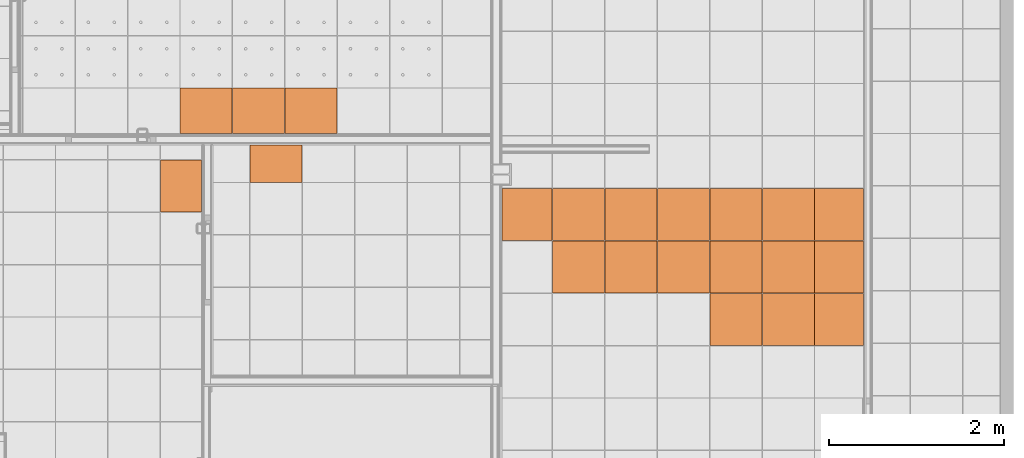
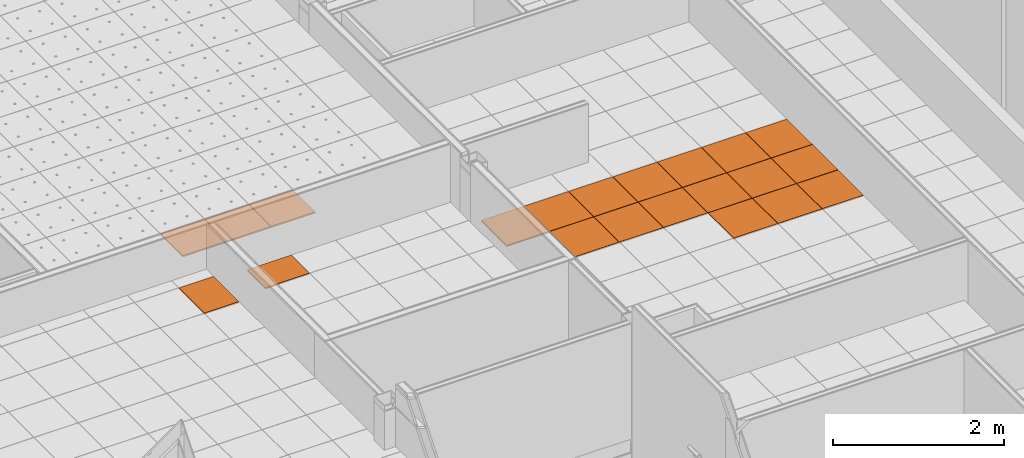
# One storey, part 288 of 338: 21 proxies, 4 elements without a shape of their own.
"""IFC2X3 building model written with IfcOpenShell, lengths in millimetres."""

import ifcopenshell
import ifcopenshell.guid

model = None  # the IFC model being written
_history = None  # IfcOwnerHistory: only IFC2X3 demands one
_inside = {}  # id of a spatial element -> (the spatial element, [elements in it])
_under = {}  # id of a project, library or spatial element -> (it, [spatial elements below it])
_declared = {}  # id of a project -> (the project, [libraries it declares])
_typed = {}  # id of a type object -> (the type object, [elements of that type])
_made_of = {}  # id of a material, layer set ... -> (it, [elements and type objects made of it])


def new_model(schema):
    """Start an empty IFC model of exactly this schema.

    Asked for "IFC4X3", IfcOpenShell would pick the latest addendum, in which some entities
    have other attributes; the version numbers below select the first issue.
    IFC2X3 requires an IfcOwnerHistory on every rooted entity: one is made here for all.
    """
    global model, _history
    if schema == "IFC4X3":
        model = ifcopenshell.file(schema_version=(4, 3, 0, 0))
    else:
        model = ifcopenshell.file(schema=schema)
    _inside.clear()
    _under.clear()
    _declared.clear()
    _typed.clear()
    _made_of.clear()
    _history = None
    if model.schema == "IFC2X3":
        org = make("IfcOrganization", Name="unknown")
        user = make(
            "IfcPersonAndOrganization",
            ThePerson=make("IfcPerson", FamilyName="unknown"),
            TheOrganization=org,
        )
        app = make(
            "IfcApplication",
            ApplicationDeveloper=org,
            Version="unknown",
            ApplicationFullName="unknown",
            ApplicationIdentifier="unknown",
        )
        _history = make(
            "IfcOwnerHistory",
            OwningUser=user,
            OwningApplication=app,
            ChangeAction="ADDED",
            CreationDate=0,
        )
    return model


def make(cls, **values):
    """One entity of the class cls with the attributes given. An attribute that is None is left unset."""
    return model.create_entity(
        cls, **{name: value for name, value in values.items() if value is not None}
    )


def entity(cls, *values):
    """Any entity or typed value of the class cls, its attributes in the order of the schema. None: left unset."""
    e = model.create_entity(cls)
    for i, value in enumerate(values):
        if value is not None:
            e[i] = value
    return e


def rooted(cls, **values):
    """An entity with a GlobalId (a new one), such as an element, a storey or a relation."""
    return make(cls, GlobalId=ifcopenshell.guid.new(), OwnerHistory=_history, **values)


def si_unit(unit_type, name, prefix=None):
    """IfcSIUnit, for example si_unit("LENGTHUNIT", "METRE", prefix="MILLI")."""
    return make("IfcSIUnit", UnitType=unit_type, Prefix=prefix, Name=name)


def converted_unit(unit_type, name, factor, base, dimensions=None, offset=None):
    """IfcConversionBasedUnit, such as the inch: factor (a typed value) times the base unit."""
    return make(
        "IfcConversionBasedUnit"
        if offset is None
        else "IfcConversionBasedUnitWithOffset",
        ConversionOffset=offset,
        Dimensions=None
        if dimensions is None
        else entity("IfcDimensionalExponents", *dimensions),
        UnitType=unit_type,
        Name=name,
        ConversionFactor=make(
            "IfcMeasureWithUnit", ValueComponent=factor, UnitComponent=base
        ),
    )


def derived_unit(unit_type, elements):
    """IfcDerivedUnit: a product of units, each with its exponent."""
    return make(
        "IfcDerivedUnit",
        Elements=[
            make("IfcDerivedUnitElement", Unit=unit, Exponent=power)
            for unit, power in elements
        ],
        UnitType=unit_type,
    )


def money_unit(currency):
    """IfcMonetaryUnit."""
    return make("IfcMonetaryUnit", Currency=currency)


def assignment(units):
    """IfcUnitAssignment: the units of a project."""
    return None if units is None else make("IfcUnitAssignment", Units=units)


def point(xyz):
    """IfcCartesianPoint."""
    return None if xyz is None else make("IfcCartesianPoint", Coordinates=xyz)


def direction(xyz):
    """IfcDirection."""
    return None if xyz is None else make("IfcDirection", DirectionRatios=xyz)


def frame(location, z_axis=None, x_axis=None):
    """IfcAxis2Placement3D, a coordinate frame: its origin and axes. An axis left out is left unset."""
    return make(
        "IfcAxis2Placement3D",
        Location=point(location),
        Axis=direction(z_axis),
        RefDirection=direction(x_axis),
    )


def origin_with_axes():
    """The frame at (0, 0, 0) with the z axis (0, 0, 1) and the x axis (1, 0, 0) written out."""
    return frame((0.0, 0.0, 0.0), z_axis=(0.0, 0.0, 1.0), x_axis=(1.0, 0.0, 0.0))


def place(relative_to, where):
    """IfcLocalPlacement: puts the frame where relative to a parent placement (None: the world)."""
    return make(
        "IfcLocalPlacement", PlacementRelTo=relative_to, RelativePlacement=where
    )


def context(
    kind, dimensions, precision=None, world=None, true_north=None, identifier=None
):
    """IfcGeometricRepresentationContext, for example the 3D "Model" context."""
    return make(
        "IfcGeometricRepresentationContext",
        ContextIdentifier=identifier,
        ContextType=kind,
        CoordinateSpaceDimension=dimensions,
        Precision=precision,
        WorldCoordinateSystem=world,
        TrueNorth=true_north,
    )


def subcontext(parent, identifier, kind, view, scale=None):
    """IfcGeometricRepresentationSubContext, for example "Body" below "Model"."""
    return make(
        "IfcGeometricRepresentationSubContext",
        ContextIdentifier=identifier,
        ContextType=kind,
        ParentContext=parent,
        TargetScale=scale,
        TargetView=view,
    )


def project(units=None, contexts=None):
    """IfcProject with its units and contexts."""
    return rooted(
        "IfcProject",
        Name="project",
        RepresentationContexts=contexts,
        UnitsInContext=assignment(units),
    )


def spatial(cls, under=None, at=None, **own):
    """A site, building, storey or space (cls), placed at a placement, below another one or the project."""
    s = rooted(cls, ObjectPlacement=at, **own)
    if under is not None:
        _under.setdefault(under.id(), (under, []))[1].append(s)
    return s


def faces_of(points, faces, orient=None, outer=None):
    """IfcFace entities. A face is a list of loops; a loop is a list of indices into points, from 0.

    orient and outer hold one flag for each loop. By default every Orientation is true, the
    first loop of a face is its IfcFaceOuterBound and the others are IfcFaceBound.
    """
    made = []
    for i, loops in enumerate(faces):
        bounds = []
        for j, loop in enumerate(loops):
            is_outer = j == 0 if outer is None else outer[i][j]
            bounds.append(
                make(
                    "IfcFaceOuterBound" if is_outer else "IfcFaceBound",
                    Bound=make("IfcPolyLoop", Polygon=[points[k] for k in loop]),
                    Orientation=True if orient is None else orient[i][j],
                )
            )
        made.append(make("IfcFace", Bounds=bounds))
    return made


def faceted_brep(points, faces, orient=None, outer=None, voids=None):
    """IfcFacetedBrep: a solid bounded by flat faces; with voids (closed shells), ...WithVoids."""
    shared = [point(p) for p in points]
    hull = make("IfcClosedShell", CfsFaces=faces_of(shared, faces, orient, outer))
    if voids is None:
        return make("IfcFacetedBrep", Outer=hull)
    return make(
        "IfcFacetedBrepWithVoids",
        Outer=hull,
        Voids=[
            make(cls, CfsFaces=faces_of(shared, fs, o, b)) for cls, fs, o, b in voids
        ],
    )


def shape(context_of_items, identifier, shape_type, items):
    """IfcShapeRepresentation: the items that make up one representation, for example the "Body"."""
    return make(
        "IfcShapeRepresentation",
        ContextOfItems=context_of_items,
        RepresentationIdentifier=identifier,
        RepresentationType=shape_type,
        Items=items,
    )


def source(mapping_origin, context_of_items, identifier, shape_type, items):
    """IfcRepresentationMap: a shape defined once, which mapped items show again and again."""
    return make(
        "IfcRepresentationMap",
        MappingOrigin=mapping_origin,
        MappedRepresentation=shape(context_of_items, identifier, shape_type, items),
    )


def transform(
    local_origin,
    x_axis=None,
    y_axis=None,
    z_axis=None,
    scale=None,
    scale2=None,
    scale3=None,
    uniform=True,
):
    """IfcCartesianTransformationOperator3D, or its non-uniform kind. x_axis, y_axis, z_axis: its Axis1, 2, 3."""
    if uniform:
        return make(
            "IfcCartesianTransformationOperator3D",
            Axis1=direction(x_axis),
            Axis2=direction(y_axis),
            LocalOrigin=point(local_origin),
            Scale=scale,
            Axis3=direction(z_axis),
        )
    return make(
        "IfcCartesianTransformationOperator3DnonUniform",
        Axis1=direction(x_axis),
        Axis2=direction(y_axis),
        LocalOrigin=point(local_origin),
        Scale=scale,
        Axis3=direction(z_axis),
        Scale2=scale2,
        Scale3=scale3,
    )


def mapped(mapping_source, mapping_target):
    """IfcMappedItem: shows the shape of a source again, moved by a transform."""
    return make(
        "IfcMappedItem", MappingSource=mapping_source, MappingTarget=mapping_target
    )


def material(Name=None, Category=None):
    """IfcMaterial."""
    return make("IfcMaterial", Name=Name, Category=Category)


def made_of(thing, what):
    """Note that an element or type object is made of a material, layer set ...; save() writes the relation."""
    if what is not None:
        _made_of.setdefault(what.id(), (what, []))[1].append(thing)
    return thing


def type_object(cls, material=None, **own):
    """A type object (cls), such as IfcWallType, which elements share."""
    return made_of(rooted(cls, **own), material)


def type_shapes(of_type, sources):
    """Give a type object the sources (RepresentationMaps) that its elements show as mapped items."""
    of_type.RepresentationMaps = sources


def element(
    cls,
    number,
    at=None,
    inside=None,
    cuts=None,
    type_object=None,
    material=None,
    context=None,
    identifier="Body",
    shape_type=None,
    held_by="IfcProductDefinitionShape",
    body=None,
    shapes=None,
    **own,
):
    """One element of the class cls, such as IfcWall. Its Tag is "e" and its number.

    at: its placement. inside: the storey or other place that contains it. cuts: it is an
    opening in that element (IfcRelVoidsElement). A single representation is given by context,
    identifier, shape_type and body (its items); several are given by shapes. held_by: the class
    of the entity that holds the representations. save() writes the other relations.
    """
    e = rooted(cls, Tag="e%d" % number, ObjectPlacement=at, **own)
    if body is not None:
        shapes = [shape(context, identifier, shape_type, body)]
    if shapes is not None:
        e.Representation = make(held_by, Representations=shapes)
    if inside is not None:
        _inside.setdefault(inside.id(), (inside, []))[1].append(e)
    if cuts is not None:
        rooted(
            "IfcRelVoidsElement", RelatingBuildingElement=cuts, RelatedOpeningElement=e
        )
    if type_object is not None:
        _typed.setdefault(type_object.id(), (type_object, []))[1].append(e)
    return made_of(e, material)


def aggregate(whole, parts):
    """IfcRelAggregates: a whole, such as a stair, and the parts it consists of."""
    return rooted("IfcRelAggregates", RelatingObject=whole, RelatedObjects=parts)


def save(model, path):
    """Write the relations noted so far, then the file.

    IfcRelAggregates (storeys below a building ...), IfcRelContainedInSpatialStructure (elements
    in a storey), IfcRelDefinesByType, IfcRelAssociatesMaterial and IfcRelDeclares: one each for
    every whole, place, type object, material and project.
    """
    for whole, parts in _under.values():
        aggregate(whole, parts)
    for where, things in _inside.values():
        rooted(
            "IfcRelContainedInSpatialStructure",
            RelatedElements=things,
            RelatingStructure=where,
        )
    for kind, things in _typed.values():
        rooted("IfcRelDefinesByType", RelatedObjects=things, RelatingType=kind)
    for what, things in _made_of.values():
        rooted("IfcRelAssociatesMaterial", RelatedObjects=things, RelatingMaterial=what)
    for by, libraries in _declared.values():
        rooted("IfcRelDeclares", RelatingContext=by, RelatedDefinitions=libraries)
    model.write(path)


model = new_model("IFC2X3")

# Units and contexts
model_context = context("Model", 3, precision=0.01, world=origin_with_axes(), true_north=direction((0.0, 1.0)))
plan_context = context("Plan", 3, precision=0.01, world=origin_with_axes(), true_north=direction((0.0, 1.0)))
body_context = subcontext(model_context, "Body", "Model", "MODEL_VIEW")
ifc_project = project(units=[si_unit("LENGTHUNIT", "METRE", prefix="MILLI"), si_unit("AREAUNIT", "SQUARE_METRE"), si_unit("VOLUMEUNIT", "CUBIC_METRE"), converted_unit("PLANEANGLEUNIT", "DEGREE", entity("IfcPlaneAngleMeasure", 0.0174532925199), si_unit("PLANEANGLEUNIT", "RADIAN"), dimensions=[0, 0, 0, 0, 0, 0, 0]), money_unit("EUR"), converted_unit("TIMEUNIT", "Year", entity("IfcTimeMeasure", 31556926.0), si_unit("TIMEUNIT", "SECOND"), dimensions=[0, 0, 1, 0, 0, 0, 0]), si_unit("MASSUNIT", "GRAM", prefix="KILO"), si_unit("THERMODYNAMICTEMPERATUREUNIT", "DEGREE_CELSIUS"), si_unit("LUMINOUSINTENSITYUNIT", "LUMEN"), si_unit("ENERGYUNIT", "JOULE", prefix="MEGA"), derived_unit("THERMALCONDUCTANCEUNIT", [(si_unit("POWERUNIT", "WATT"), 1), (si_unit("LENGTHUNIT", "METRE"), -1), (si_unit("THERMODYNAMICTEMPERATUREUNIT", "KELVIN"), -1)]), derived_unit("SPECIFICHEATCAPACITYUNIT", [(si_unit("ENERGYUNIT", "JOULE"), 1), (si_unit("MASSUNIT", "GRAM", prefix="KILO"), -1), (si_unit("THERMODYNAMICTEMPERATUREUNIT", "KELVIN"), -1)]), derived_unit("MASSDENSITYUNIT", [(si_unit("MASSUNIT", "GRAM", prefix="KILO"), 1), (si_unit("VOLUMEUNIT", "CUBIC_METRE"), -1)])], contexts=[model_context, plan_context])

# Site, building, storey
site_placement = place(None, origin_with_axes())
site = spatial("IfcSite", under=ifc_project, at=site_placement, Name="Fortuinstraat Woensdrecht", CompositionType="ELEMENT")
building_placement = place(site_placement, origin_with_axes())
building = spatial("IfcBuilding", under=site, at=building_placement, Name="IKC Fortuna", CompositionType="ELEMENT")
storey_placement = place(building_placement, origin_with_axes())
storey = spatial("IfcBuildingStorey", under=building, at=storey_placement, Name="00 begane grond", CompositionType="ELEMENT", Elevation=0.0)

# Covering, proxies
covering_type = type_object("IfcCoveringType", Name="Curtain Wall Type", PredefinedType="CEILING")
covering_1_placement = place(storey_placement, frame((29266.9722516, 29133.4974296, 2810.0), z_axis=(0.0, 0.0, 1.0), x_axis=(1.0, 0.0, 0.0)))
covering_1 = element("IfcCovering", 1, at=covering_1_placement, inside=storey, type_object=covering_type, Name="45_Plafondafwerking_P02 v", PredefinedType="CEILING")
ifc_material = material(Name="Gipsplaat")
building_element_proxy_type_1 = type_object("IfcBuildingElementProxyType", Name="Distinct Panel 600 x 600 x 20", PredefinedType="NOTDEFINED")
shared_shape_1 = source(origin_with_axes(), body_context, "Body", "Brep", [
    faceted_brep([(-2.49999999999, 2.5, -10.0), (-2.49999999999, 2.5, 10.0), (-597.5, 2.49999999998, 10.0), (-597.5, 2.49999999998, -10.0), (-2.50000000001, 597.5, -10.0), (-2.50000000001, 597.5, 10.0), (-597.5, 597.5, 10.0), (-597.5, 597.5, -10.0)], [[[0, 1, 2, 3]], [[4, 5, 1, 0]], [[1, 5, 6, 2]], [[3, 2, 6, 7]], [[0, 3, 7, 4]], [[7, 6, 5, 4]]]),
])
type_shapes(building_element_proxy_type_1, [shared_shape_1])
proxy_1_placement = place(covering_1_placement, frame((2990.03728037, -3000.0, 1.07913677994e-10), z_axis=(0.0, 0.0, 1.0), x_axis=(1.0, 0.0, 0.0)))
proxy_1 = element("IfcBuildingElementProxy", 2, at=proxy_1_placement, type_object=building_element_proxy_type_1, material=ifc_material, Name="__Panel-D", context=body_context, shape_type="MappedRepresentation", body=[
    mapped(shared_shape_1, transform((-300.0, 300.0, 0.0), x_axis=(-1.0, 0.0, 0.0), y_axis=(0.0, -1.0, 0.0), z_axis=(0.0, 0.0, 1.0))),
])
proxy_2_placement = place(covering_1_placement, frame((2990.03728037, -2400.0, 1.07913677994e-10), z_axis=(0.0, 0.0, 1.0), x_axis=(1.0, 0.0, 0.0)))
proxy_2 = element("IfcBuildingElementProxy", 3, at=proxy_2_placement, type_object=building_element_proxy_type_1, material=ifc_material, Name="__Panel-D", context=body_context, shape_type="MappedRepresentation", body=[
    mapped(shared_shape_1, transform((-300.0, 300.0, 0.0), x_axis=(-1.0, 0.0, 0.0), y_axis=(0.0, -1.0, 0.0), z_axis=(0.0, 0.0, 1.0))),
])
proxy_3_placement = place(covering_1_placement, frame((2990.03728037, -1800.0, 1.07913677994e-10), z_axis=(0.0, 0.0, 1.0), x_axis=(1.0, 0.0, 0.0)))
proxy_3 = element("IfcBuildingElementProxy", 4, at=proxy_3_placement, type_object=building_element_proxy_type_1, material=ifc_material, Name="__Panel-D", context=body_context, shape_type="MappedRepresentation", body=[
    mapped(shared_shape_1, transform((-300.0, 300.0, 0.0), x_axis=(-1.0, 0.0, 0.0), y_axis=(0.0, -1.0, 0.0), z_axis=(0.0, 0.0, 1.0))),
])
proxy_4_placement = place(covering_1_placement, frame((590.037280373, -1800.0, 0.0), z_axis=(0.0, 0.0, 1.0), x_axis=(1.0, 0.0, 0.0)))
proxy_4 = element("IfcBuildingElementProxy", 5, at=proxy_4_placement, type_object=building_element_proxy_type_1, material=ifc_material, Name="__Panel-D", context=body_context, shape_type="MappedRepresentation", body=[
    mapped(shared_shape_1, transform((-300.0, 300.0, 0.0), x_axis=(-1.0, 0.0, 0.0), y_axis=(0.0, -1.0, 0.0), z_axis=(0.0, 0.0, 1.0))),
])
proxy_5_placement = place(covering_1_placement, frame((590.037280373, -2400.0, 0.0), z_axis=(0.0, 0.0, 1.0), x_axis=(1.0, 0.0, 0.0)))
proxy_5 = element("IfcBuildingElementProxy", 6, at=proxy_5_placement, type_object=building_element_proxy_type_1, material=ifc_material, Name="__Panel-D", context=body_context, shape_type="MappedRepresentation", body=[
    mapped(shared_shape_1, transform((-300.0, 300.0, 0.0), x_axis=(-1.0, 0.0, 0.0), y_axis=(0.0, -1.0, 0.0), z_axis=(0.0, 0.0, 1.0))),
])
proxy_6_placement = place(covering_1_placement, frame((1190.03728037, -1800.0, 0.0), z_axis=(0.0, 0.0, 1.0), x_axis=(1.0, 0.0, 0.0)))
proxy_6 = element("IfcBuildingElementProxy", 7, at=proxy_6_placement, type_object=building_element_proxy_type_1, material=ifc_material, Name="__Panel-D", context=body_context, shape_type="MappedRepresentation", body=[
    mapped(shared_shape_1, transform((-300.0, 300.0, 0.0), x_axis=(-1.0, 0.0, 0.0), y_axis=(0.0, -1.0, 0.0), z_axis=(0.0, 0.0, 1.0))),
])
proxy_7_placement = place(covering_1_placement, frame((1190.03728037, -2400.0, 0.0), z_axis=(0.0, 0.0, 1.0), x_axis=(1.0, 0.0, 0.0)))
proxy_7 = element("IfcBuildingElementProxy", 8, at=proxy_7_placement, type_object=building_element_proxy_type_1, material=ifc_material, Name="__Panel-D", context=body_context, shape_type="MappedRepresentation", body=[
    mapped(shared_shape_1, transform((-300.0, 300.0, 0.0), x_axis=(-1.0, 0.0, 0.0), y_axis=(0.0, -1.0, 0.0), z_axis=(0.0, 0.0, 1.0))),
])
proxy_8_placement = place(covering_1_placement, frame((1790.03728037, -1800.0, 0.0), z_axis=(0.0, 0.0, 1.0), x_axis=(1.0, 0.0, 0.0)))
proxy_8 = element("IfcBuildingElementProxy", 9, at=proxy_8_placement, type_object=building_element_proxy_type_1, material=ifc_material, Name="__Panel-D", context=body_context, shape_type="MappedRepresentation", body=[
    mapped(shared_shape_1, transform((-300.0, 300.0, 0.0), x_axis=(-1.0, 0.0, 0.0), y_axis=(0.0, -1.0, 0.0), z_axis=(0.0, 0.0, 1.0))),
])
proxy_9_placement = place(covering_1_placement, frame((1790.03728037, -2400.0, 0.0), z_axis=(0.0, 0.0, 1.0), x_axis=(1.0, 0.0, 0.0)))
proxy_9 = element("IfcBuildingElementProxy", 10, at=proxy_9_placement, type_object=building_element_proxy_type_1, material=ifc_material, Name="__Panel-D", context=body_context, shape_type="MappedRepresentation", body=[
    mapped(shared_shape_1, transform((-300.0, 300.0, 0.0), x_axis=(-1.0, 0.0, 0.0), y_axis=(0.0, -1.0, 0.0), z_axis=(0.0, 0.0, 1.0))),
])
proxy_10_placement = place(covering_1_placement, frame((2390.03728037, -1800.0, 0.0), z_axis=(0.0, 0.0, 1.0), x_axis=(1.0, 0.0, 0.0)))
proxy_10 = element("IfcBuildingElementProxy", 11, at=proxy_10_placement, type_object=building_element_proxy_type_1, material=ifc_material, Name="__Panel-D", context=body_context, shape_type="MappedRepresentation", body=[
    mapped(shared_shape_1, transform((-300.0, 300.0, 0.0), x_axis=(-1.0, 0.0, 0.0), y_axis=(0.0, -1.0, 0.0), z_axis=(0.0, 0.0, 1.0))),
])
proxy_11_placement = place(covering_1_placement, frame((2390.03728037, -2400.0, 0.0), z_axis=(0.0, 0.0, 1.0), x_axis=(1.0, 0.0, 0.0)))
proxy_11 = element("IfcBuildingElementProxy", 12, at=proxy_11_placement, type_object=building_element_proxy_type_1, material=ifc_material, Name="__Panel-D", context=body_context, shape_type="MappedRepresentation", body=[
    mapped(shared_shape_1, transform((-300.0, 300.0, 0.0), x_axis=(-1.0, 0.0, 0.0), y_axis=(0.0, -1.0, 0.0), z_axis=(0.0, 0.0, 1.0))),
])
proxy_12_placement = place(covering_1_placement, frame((2390.03728037, -3000.0, 0.0), z_axis=(0.0, 0.0, 1.0), x_axis=(1.0, 0.0, 0.0)))
proxy_12 = element("IfcBuildingElementProxy", 13, at=proxy_12_placement, type_object=building_element_proxy_type_1, material=ifc_material, Name="__Panel-D", context=body_context, shape_type="MappedRepresentation", body=[
    mapped(shared_shape_1, transform((-300.0, 300.0, 0.0), x_axis=(-1.0, 0.0, 0.0), y_axis=(0.0, -1.0, 0.0), z_axis=(0.0, 0.0, 1.0))),
])

# Covering, proxy
covering_2_placement = place(storey_placement, frame((21169.4446171, 27661.0834994, 3010.0), z_axis=(0.0, 0.0, 1.0), x_axis=(1.0, 0.0, 0.0)))
covering_2 = element("IfcCovering", 14, at=covering_2_placement, inside=storey, type_object=covering_type, Name="45_Plafondafwerking_P04", PredefinedType="CEILING")
building_element_proxy_type_2 = type_object("IfcBuildingElementProxyType", Name="Distinct Panel 475 x 600 x 20", PredefinedType="NOTDEFINED")
shared_shape_2 = source(origin_with_axes(), body_context, "Body", "Brep", [
    faceted_brep([(-2.49999743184, 2.5, -10.0), (-2.49999743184, 2.5, 10.0), (-472.366146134, 2.49999999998, 10.0), (-472.366146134, 2.49999999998, -10.0), (-2.49999743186, 597.5, -10.0), (-2.49999743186, 597.5, 10.0), (-472.366146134, 597.5, 10.0), (-472.366146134, 597.5, -10.0)], [[[0, 1, 2, 3]], [[4, 5, 1, 0]], [[1, 5, 6, 2]], [[3, 2, 6, 7]], [[0, 3, 7, 4]], [[7, 6, 5, 4]]]),
])
type_shapes(building_element_proxy_type_2, [shared_shape_2])
proxy_13_placement = place(covering_2_placement, frame((4137.43307307, -1.59872115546e-10, 1.54098955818e-10), z_axis=(0.0, 0.0, 1.0), x_axis=(1.0, 0.0, 0.0)))
proxy_13 = element("IfcBuildingElementProxy", 15, at=proxy_13_placement, type_object=building_element_proxy_type_2, material=ifc_material, Name="__Panel-D", context=body_context, shape_type="MappedRepresentation", body=[
    mapped(shared_shape_2, transform((-237.433073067, 300.0, 0.0), x_axis=(-1.0, 0.0, 0.0), y_axis=(0.0, -1.0, 0.0), z_axis=(0.0, 0.0, 1.0))),
])
aggregate(covering_2, [proxy_13])

# Proxy
building_element_proxy_type_3 = type_object("IfcBuildingElementProxyType", Name="Distinct Panel 580 x 600 x 20", PredefinedType="NOTDEFINED")
shared_shape_3 = source(origin_with_axes(), body_context, "Body", "Brep", [
    faceted_brep([(-22.4254255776, 2.5, -10.0), (-22.4254255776, 2.5, 10.0), (-597.5, 2.49999999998, 10.0), (-597.5, 2.49999999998, -10.0), (-22.4254523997, 597.5, -10.0), (-22.4254523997, 597.5, 10.0), (-597.5, 597.5, 10.0), (-597.5, 597.5, -10.0)], [[[0, 1, 2, 3]], [[4, 5, 1, 0]], [[1, 5, 6, 2]], [[3, 2, 6, 7]], [[0, 3, 7, 4]], [[7, 6, 5, 4]]]),
])
type_shapes(building_element_proxy_type_3, [shared_shape_3])
proxy_14_placement = place(covering_1_placement, frame((5.87753845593e-06, -1800.0, 0.0), z_axis=(0.0, 0.0, 1.0), x_axis=(1.0, 0.0, 0.0)))
proxy_14 = element("IfcBuildingElementProxy", 16, at=proxy_14_placement, type_object=building_element_proxy_type_3, material=ifc_material, Name="__Panel-D", context=body_context, shape_type="MappedRepresentation", body=[
    mapped(shared_shape_3, transform((-309.962725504, 300.0, 0.0), x_axis=(-1.0, 0.0, 0.0), y_axis=(0.0, -1.0, 0.0), z_axis=(0.0, 0.0, 1.0))),
])

building_element_proxy_type_4 = type_object("IfcBuildingElementProxyType", Name="Distinct Panel 563 x 600 x 20", PredefinedType="NOTDEFINED")
shared_shape_4 = source(origin_with_axes(), body_context, "Body", "Brep", [
    faceted_brep([(-2.4999963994, 2.5, -10.0), (-2.4999963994, 2.5, 10.0), (-560.154491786, 2.49999999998, 10.0), (-560.154491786, 2.49999999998, -10.0), (-2.49999639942, 597.5, -10.0), (-2.49999639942, 597.5, 10.0), (-560.154491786, 597.5, 10.0), (-560.154491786, 597.5, -10.0)], [[[0, 1, 2, 3]], [[4, 5, 1, 0]], [[1, 5, 6, 2]], [[3, 2, 6, 7]], [[0, 3, 7, 4]], [[7, 6, 5, 4]]]),
])
type_shapes(building_element_proxy_type_4, [shared_shape_4])
proxy_15_placement = place(covering_1_placement, frame((3571.36452627, -1800.0, 1.27009514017e-10), z_axis=(0.0, 0.0, 1.0), x_axis=(1.0, 0.0, 0.0)))
proxy_15 = element("IfcBuildingElementProxy", 17, at=proxy_15_placement, type_object=building_element_proxy_type_4, material=ifc_material, Name="__Panel-D", context=body_context, shape_type="MappedRepresentation", body=[
    mapped(shared_shape_4, transform((-281.327245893, 300.0, 0.0), x_axis=(-1.0, 0.0, 0.0), y_axis=(0.0, -1.0, 0.0), z_axis=(0.0, 0.0, 1.0))),
])

proxy_16_placement = place(covering_1_placement, frame((3571.36452627, -3000.0, 1.27009514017e-10), z_axis=(0.0, 0.0, 1.0), x_axis=(1.0, 0.0, 0.0)))
proxy_16 = element("IfcBuildingElementProxy", 18, at=proxy_16_placement, type_object=building_element_proxy_type_4, material=ifc_material, Name="__Panel-D", context=body_context, shape_type="MappedRepresentation", body=[
    mapped(shared_shape_4, transform((-281.327245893, 300.0, 0.0), x_axis=(-1.0, 0.0, 0.0), y_axis=(0.0, -1.0, 0.0), z_axis=(0.0, 0.0, 1.0))),
])

proxy_17_placement = place(covering_1_placement, frame((3571.36452627, -2400.0, 1.27009514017e-10), z_axis=(0.0, 0.0, 1.0), x_axis=(1.0, 0.0, 0.0)))
proxy_17 = element("IfcBuildingElementProxy", 19, at=proxy_17_placement, type_object=building_element_proxy_type_4, material=ifc_material, Name="__Panel-D", context=body_context, shape_type="MappedRepresentation", body=[
    mapped(shared_shape_4, transform((-281.327245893, 300.0, 0.0), x_axis=(-1.0, 0.0, 0.0), y_axis=(0.0, -1.0, 0.0), z_axis=(0.0, 0.0, 1.0))),
])

aggregate(covering_1, [proxy_15, proxy_14, proxy_16, proxy_17, proxy_1, proxy_2, proxy_3, proxy_4, proxy_5, proxy_6, proxy_7, proxy_8, proxy_9, proxy_10, proxy_11, proxy_12])

# Covering, proxies
covering_3_placement = place(storey_placement, frame((24394.3550152, 31482.3495284, 3210.0), z_axis=(0.0, 0.0, 1.0), x_axis=(1.0, 0.0, 0.0)))
covering_3 = element("IfcCovering", 20, at=covering_3_placement, inside=storey, type_object=covering_type, Name="45_Plafondafwerking_P01", PredefinedType="CEILING")
building_element_proxy_type_5 = type_object("IfcBuildingElementProxyType", Name="600 x 525 x 20", PredefinedType="NOTDEFINED")
shared_shape_5 = source(origin_with_axes(), body_context, "Body", "Brep", [
    faceted_brep([(2.49999999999, 2.49999909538, -10.0), (597.5, 2.49999909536, -10.0), (597.5, 2.49999909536, 10.0), (2.49999999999, 2.49999909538, 10.0), (2.50000000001, 522.44694495, -10.0), (597.5, 522.44694495, -10.0), (597.5, 522.44694495, 10.0), (2.50000000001, 522.44694495, 10.0)], [[[0, 1, 2, 3]], [[0, 4, 5, 1]], [[1, 5, 6, 2]], [[3, 2, 6, 7]], [[4, 0, 3, 7]], [[5, 4, 7, 6]]]),
])
proxy_18_placement = place(covering_3_placement, frame((2400.0, -2962.47347248, 0.0), z_axis=(0.0, 0.0, 1.0), x_axis=(1.0, 0.0, 0.0)))
proxy_18 = element("IfcBuildingElementProxy", 21, at=proxy_18_placement, type_object=building_element_proxy_type_5, material=ifc_material, Name="__600x623 Rockfon Krios", context=body_context, shape_type="MappedRepresentation", body=[
    mapped(shared_shape_5, transform((300.0, 262.473472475, 0.0), x_axis=(-1.0, 0.0, 0.0), y_axis=(0.0, -1.0, 0.0), z_axis=(0.0, 0.0, 1.0))),
])
proxy_19_placement = place(covering_3_placement, frame((1200.0, -2962.47347248, 1.06581410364e-10), z_axis=(0.0, 0.0, 1.0), x_axis=(1.0, 0.0, 0.0)))
proxy_19 = element("IfcBuildingElementProxy", 22, at=proxy_19_placement, type_object=building_element_proxy_type_5, material=ifc_material, Name="__600x664 Rockfon Krios", context=body_context, shape_type="MappedRepresentation", body=[
    mapped(shared_shape_5, transform((300.0, 262.473472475, 0.0), x_axis=(-1.0, 0.0, 0.0), y_axis=(0.0, -1.0, 0.0), z_axis=(0.0, 0.0, 1.0))),
])
shared_shape_6 = source(origin_with_axes(), body_context, "Body", "Brep", [
    faceted_brep([(2.49999999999, 2.4999990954, -10.0), (597.5, 2.49999909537, -10.0), (597.5, 2.49999909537, 10.0), (2.49999999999, 2.4999990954, 10.0), (2.50000000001, 522.44694495, -10.0), (597.5, 522.44694495, -10.0), (597.5, 522.44694495, 10.0), (2.50000000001, 522.44694495, 10.0)], [[[0, 1, 2, 3]], [[0, 4, 5, 1]], [[1, 5, 6, 2]], [[3, 2, 6, 7]], [[4, 0, 3, 7]], [[5, 4, 7, 6]]]),
])
type_shapes(building_element_proxy_type_5, [shared_shape_5, shared_shape_6])
proxy_20_placement = place(covering_3_placement, frame((1800.0, -2962.47347248, 0.0), z_axis=(0.0, 0.0, 1.0), x_axis=(1.0, 0.0, 0.0)))
proxy_20 = element("IfcBuildingElementProxy", 23, at=proxy_20_placement, type_object=building_element_proxy_type_5, material=ifc_material, Name="__600x709 Rockfon Krios", context=body_context, shape_type="MappedRepresentation", body=[
    mapped(shared_shape_6, transform((300.0, 262.473472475, 0.0), x_axis=(-1.0, 0.0, 0.0), y_axis=(0.0, -1.0, 0.0), z_axis=(0.0, 0.0, 1.0))),
])
aggregate(covering_3, [proxy_18, proxy_19, proxy_20])

# Covering, proxy
covering_4_placement = place(storey_placement, frame((25881.8218229, 26800.2480691, 2810.0), z_axis=(0.0, 0.0, 1.0), x_axis=(1.0, 0.0, 0.0)))
covering_4 = element("IfcCovering", 24, at=covering_4_placement, inside=storey, type_object=covering_type, Name="45_Plafondafwerking_P02", PredefinedType="CEILING")
building_element_proxy_type_6 = type_object("IfcBuildingElementProxyType", Name="Distinct Panel 600 x 432 x 20", PredefinedType="NOTDEFINED")
shared_shape_7 = source(origin_with_axes(), body_context, "Body", "Brep", [
    faceted_brep([(2.49999999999, 170.345486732, -10.0), (597.5, 170.345486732, -10.0), (597.5, 170.345486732, 10.0), (2.49999999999, 170.345486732, 10.0), (2.5, 597.5, -10.0), (597.5, 597.5, -10.0), (597.5, 597.5, 10.0), (2.5, 597.5, 10.0)], [[[0, 1, 2, 3]], [[0, 4, 5, 1]], [[1, 5, 6, 2]], [[3, 2, 6, 7]], [[4, 0, 3, 7]], [[5, 4, 7, 6]]]),
])
type_shapes(building_element_proxy_type_6, [shared_shape_7])
proxy_21_placement = place(covering_4_placement, frame((512.511068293, 1116.07725517, 0.0), z_axis=(0.0, 0.0, 1.0), x_axis=(1.0, 0.0, 0.0)))
proxy_21 = element("IfcBuildingElementProxy", 25, at=proxy_21_placement, type_object=building_element_proxy_type_6, material=ifc_material, Name="__Panel-D", context=body_context, shape_type="MappedRepresentation", body=[
    mapped(shared_shape_7, transform((300.0, 383.922744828, 0.0), x_axis=(-1.0, 0.0, 0.0), y_axis=(0.0, -1.0, 0.0), z_axis=(0.0, 0.0, 1.0))),
])
aggregate(covering_4, [proxy_21])

save(model, "model.ifc")
